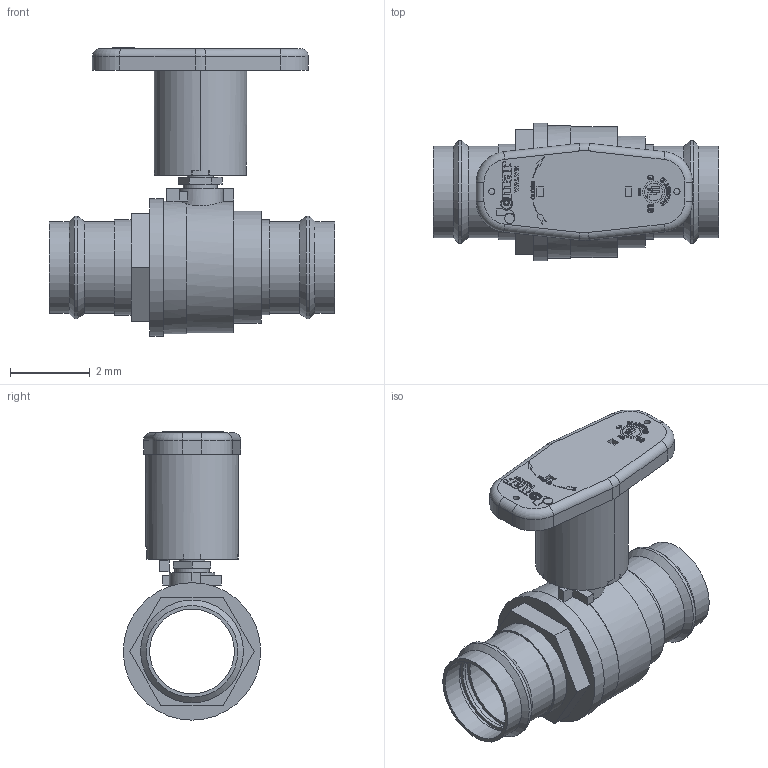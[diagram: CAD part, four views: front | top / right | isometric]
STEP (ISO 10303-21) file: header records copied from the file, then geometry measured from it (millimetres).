
FILE_DESCRIPTION(('Open CASCADE Model'),'2;1');
FILE_NAME('Open CASCADE Shape Model','2021-10-14T09:08:05',('Author'),( 'Open CASCADE'),'Open CASCADE STEP processor 7.3','Open CASCADE 7.3' ,'Unknown');
FILE_SCHEMA(('AUTOMOTIVE_DESIGN { 1 0 10303 214 1 1 1 1 }'));
Length unit declared in the file: millimetre
Products named in the file (10): Open CASCADE STEP translator 7.3 1; Open CASCADE STEP translator 7.3 1.1; Open CASCADE STEP translator 7.3 1.2; Open CASCADE STEP translator 7.3 1.3; Open CASCADE STEP translator 7.3 1.4; Open CASCADE STEP translator 7.3 1.5; Open CASCADE STEP translator 7.3 1.6; Open CASCADE STEP translator 7.3 1.7; Open CASCADE STEP translator 7.3 1.8; Open CASCADE STEP translator 7.3 1.9
Assembly tree (9 placements, depth 2):
  Open CASCADE STEP translator 7.3 1
    Open CASCADE STEP translator 7.3 1.1
    Open CASCADE STEP translator 7.3 1.2
    Open CASCADE STEP translator 7.3 1.3
    Open CASCADE STEP translator 7.3 1.4
    Open CASCADE STEP translator 7.3 1.5
    Open CASCADE STEP translator 7.3 1.6
    Open CASCADE STEP translator 7.3 1.7
    Open CASCADE STEP translator 7.3 1.8
    Open CASCADE STEP translator 7.3 1.9
Bounding box: 7.16 x 3.45 x 7.24 mm (x, y, z)
Volume: 31.3 mm3; surface area: 226 mm2
Topology: 5 solids, 9 shells, 2676 faces, 7758 edges, 5164 vertices
Faces by surface type: plane 2526, cylinder 132, cone 6, torus 6, extrusion 6
Full cylindrical faces by diameter (mm): 0.029 x1, 0.034 x1, 0.087 x1, 0.155 x2, 0.197 x1, 0.243 x1, 0.653 x1, 0.86 x1, 1.872 x1, 1.931 x1, 2.131 x5, 2.304 x4, 2.306 x4, 2.389 x1, 2.402 x1, 2.583 x2, 2.813 x1, 3.328 x1, 3.454 x1
Entity records: 189037 total; most frequent: CARTESIAN_POINT 33192, DIRECTION 28712, VECTOR 22562, LINE 22556, ORIENTED_EDGE 15512, PCURVE 15504, DEFINITIONAL_REPRESENTATION 15504, EDGE_CURVE 7758
